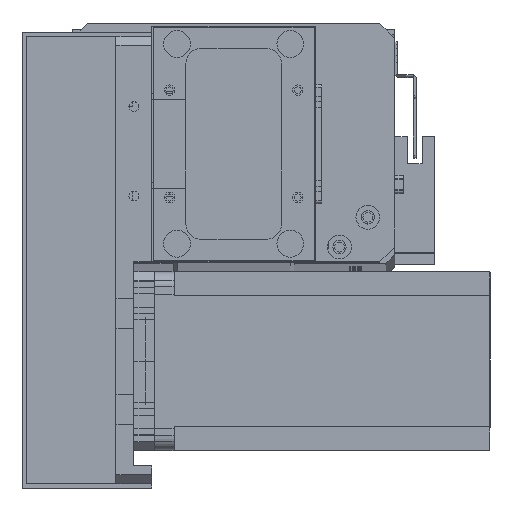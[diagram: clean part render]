
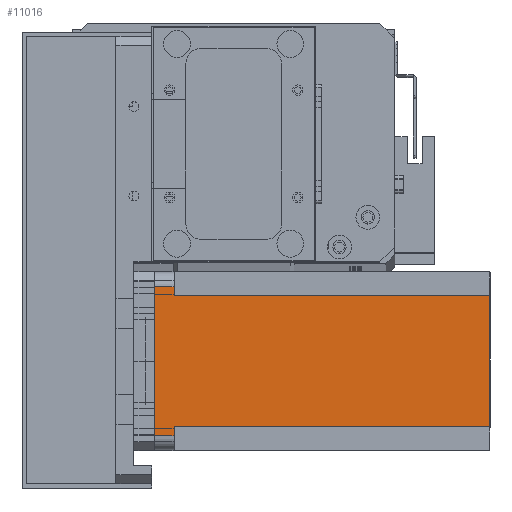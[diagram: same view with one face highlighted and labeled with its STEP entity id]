
A CAD part, top view. The second image highlights one B-rep face of the part: STEP entity #11016.
In plain terms, the highlighted planar face has unit normal (0, 0, 1) as drawn and (0, 1, 0) by its records, which use the part's own axes.
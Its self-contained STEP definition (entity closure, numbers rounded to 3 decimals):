
#1961 = CARTESIAN_POINT ( 'NONE',  ( 0., 60., 0. ) ) ;
#2283 = CARTESIAN_POINT ( 'NONE',  ( 55., 60., 0. ) ) ;
#2382 = VERTEX_POINT ( 'NONE', #8720 ) ;
#3123 = VERTEX_POINT ( 'NONE', #22233 ) ;
#3900 = VERTEX_POINT ( 'NONE', #2283 ) ;
#4012 = VERTEX_POINT ( 'NONE', #20927 ) ;
#5337 = ORIENTED_EDGE ( 'NONE', *, *, #11902, .T. ) ;
#5795 = CARTESIAN_POINT ( 'NONE',  ( 0., 60., -112.5 ) ) ;
#6010 = VERTEX_POINT ( 'NONE', #11427 ) ;
#6135 = CARTESIAN_POINT ( 'NONE',  ( 55., 60., -112.5 ) ) ;
#6309 = VERTEX_POINT ( 'NONE', #28354 ) ;
#7174 = VECTOR ( 'NONE', #15993, 1000. ) ;
#7215 = DIRECTION ( 'NONE',  ( 0., 0., 1. ) ) ;
#7773 = DIRECTION ( 'NONE',  ( 0., 0., -1. ) ) ;
#8087 = CARTESIAN_POINT ( 'NONE',  ( 52., 60., -6.5 ) ) ;
#8554 = EDGE_CURVE ( 'NONE', #6010, #2382, #18777, .T. ) ;
#8720 = CARTESIAN_POINT ( 'NONE',  ( 8., 60., -112.5 ) ) ;
#10490 = FACE_OUTER_BOUND ( 'NONE', #20850, .T. ) ;
#11016 = ADVANCED_FACE ( 'NONE', ( #10490 ), #20280, .T. ) ;
#11113 = CARTESIAN_POINT ( 'NONE',  ( 52., 60., -112.5 ) ) ;
#11140 = AXIS2_PLACEMENT_3D ( 'NONE', #20147, #22886, #7215 ) ;
#11222 = EDGE_CURVE ( 'NONE', #6010, #16044, #31809, .T. ) ;
#11393 = EDGE_CURVE ( 'NONE', #3900, #3123, #26858, .T. ) ;
#11427 = CARTESIAN_POINT ( 'NONE',  ( 8., 60., -6.5 ) ) ;
#11902 = EDGE_CURVE ( 'NONE', #16044, #4012, #19841, .T. ) ;
#12125 = VECTOR ( 'NONE', #21541, 1000. ) ;
#12465 = DIRECTION ( 'NONE',  ( -1., 0., 0. ) ) ;
#13157 = CARTESIAN_POINT ( 'NONE',  ( 8., 60., -112.5 ) ) ;
#14125 = LINE ( 'NONE', #8087, #7174 ) ;
#15790 = CARTESIAN_POINT ( 'NONE',  ( 8., 60., -6.5 ) ) ;
#15993 = DIRECTION ( 'NONE',  ( 1., 0., 0. ) ) ;
#16044 = VERTEX_POINT ( 'NONE', #27025 ) ;
#16339 = DIRECTION ( 'NONE',  ( -1., 0., 0. ) ) ;
#16675 = DIRECTION ( 'NONE',  ( 0., 0., -1. ) ) ;
#17112 = CARTESIAN_POINT ( 'NONE',  ( 5., 60., -112.5 ) ) ;
#18761 = VECTOR ( 'NONE', #16339, 1000. ) ;
#18777 = LINE ( 'NONE', #13157, #19593 ) ;
#19435 = ORIENTED_EDGE ( 'NONE', *, *, #27739, .F. ) ;
#19593 = VECTOR ( 'NONE', #7773, 1000. ) ;
#19841 = LINE ( 'NONE', #17112, #26018 ) ;
#19879 = VECTOR ( 'NONE', #16675, 1000. ) ;
#20147 = CARTESIAN_POINT ( 'NONE',  ( 0., 60., -112.5 ) ) ;
#20280 = PLANE ( 'NONE',  #11140 ) ;
#20850 = EDGE_LOOP ( 'NONE', ( #23477, #31646, #19435, #33792, #29650, #22996, #28766, #5337 ) ) ;
#20927 = CARTESIAN_POINT ( 'NONE',  ( 5., 60., 0. ) ) ;
#21541 = DIRECTION ( 'NONE',  ( 0., 0., 1. ) ) ;
#21651 = CARTESIAN_POINT ( 'NONE',  ( 52., 60., -6.5 ) ) ;
#22233 = CARTESIAN_POINT ( 'NONE',  ( 55., 60., -6.5 ) ) ;
#22886 = DIRECTION ( 'NONE',  ( 0., 1., 0. ) ) ;
#22996 = ORIENTED_EDGE ( 'NONE', *, *, #8554, .F. ) ;
#23171 = VECTOR ( 'NONE', #12465, 1000. ) ;
#23477 = ORIENTED_EDGE ( 'NONE', *, *, #27458, .F. ) ;
#24819 = VECTOR ( 'NONE', #29067, 1000. ) ;
#26018 = VECTOR ( 'NONE', #30183, 1000. ) ;
#26091 = LINE ( 'NONE', #11113, #12125 ) ;
#26114 = EDGE_CURVE ( 'NONE', #6309, #2382, #31908, .T. ) ;
#26858 = LINE ( 'NONE', #6135, #19879 ) ;
#27025 = CARTESIAN_POINT ( 'NONE',  ( 5., 60., -6.5 ) ) ;
#27131 = EDGE_CURVE ( 'NONE', #6309, #27145, #26091, .T. ) ;
#27145 = VERTEX_POINT ( 'NONE', #21651 ) ;
#27458 = EDGE_CURVE ( 'NONE', #3900, #4012, #30141, .T. ) ;
#27739 = EDGE_CURVE ( 'NONE', #27145, #3123, #14125, .T. ) ;
#28354 = CARTESIAN_POINT ( 'NONE',  ( 52., 60., -112.5 ) ) ;
#28766 = ORIENTED_EDGE ( 'NONE', *, *, #11222, .T. ) ;
#29067 = DIRECTION ( 'NONE',  ( -1., 0., 0. ) ) ;
#29650 = ORIENTED_EDGE ( 'NONE', *, *, #26114, .T. ) ;
#30141 = LINE ( 'NONE', #1961, #23171 ) ;
#30183 = DIRECTION ( 'NONE',  ( 0., 0., 1. ) ) ;
#31646 = ORIENTED_EDGE ( 'NONE', *, *, #11393, .T. ) ;
#31809 = LINE ( 'NONE', #15790, #24819 ) ;
#31908 = LINE ( 'NONE', #5795, #18761 ) ;
#33792 = ORIENTED_EDGE ( 'NONE', *, *, #27131, .F. ) ;
